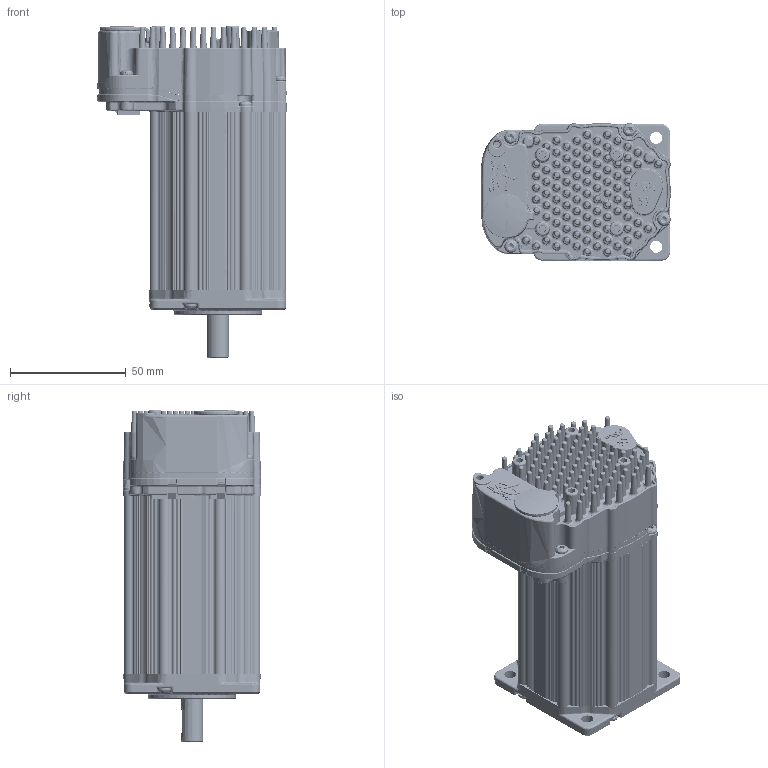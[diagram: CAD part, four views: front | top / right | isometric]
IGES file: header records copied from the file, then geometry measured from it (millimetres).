
Start section: SolidWorks IGES file using analytic representation for surfaces
Global section: file name: C:\TeknicPDM\Clearpath\Customer Downloadable Files\CPM-_ _ _ _ -233x_-LS.IGS; native system: SolidWorks 2020; preprocessor: SolidWorks 2020; author: matt_ciminelli; date: 220624.082932; units: inch
Bounding box: 81.98 x 59.69 x 143.7 mm (x, y, z)
Surface area: 75957.6 mm2 (no closed solid volume)
Topology: 0 solids, 0 shells, 7359 faces, 71914 edges, 71660 vertices
Faces by surface type: revolution 3865, bspline 3494
